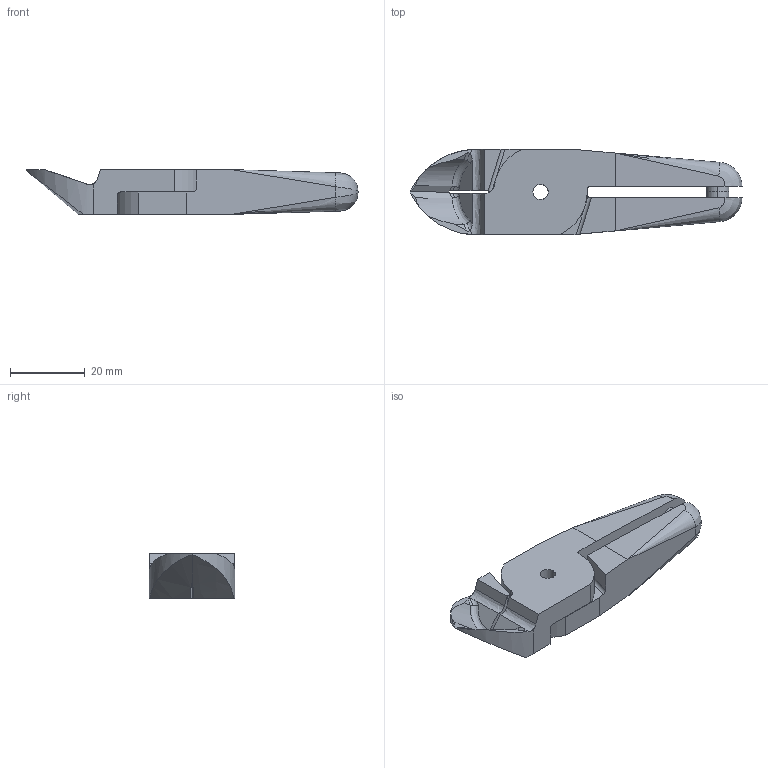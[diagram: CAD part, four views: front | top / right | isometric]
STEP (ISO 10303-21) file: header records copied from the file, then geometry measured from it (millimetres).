
FILE_DESCRIPTION (( 'STEP AP214' ), '1' );
FILE_NAME ('N10LPF.STEP', '2019-11-29T08:21:03', ( '微软用户' ), ( '微软中国' ), 'SwSTEP 2.0', 'SolidWorks 2016', '' );
FILE_SCHEMA (( 'AUTOMOTIVE_DESIGN' ));
Length unit declared in the file: millimetre
Products named in the file (1): N10LPF
Bounding box: 89 x 23 x 12 mm (x, y, z)
Surface area: 7779 mm2 (no closed solid volume)
Topology: 0 solids, 2 shells, 90 faces, 261 edges, 170 vertices
Faces by surface type: plane 45, cylinder 29, bspline 16
Entity records: 4874 total; most frequent: CARTESIAN_POINT 2255, ORIENTED_EDGE 505, DIRECTION 345, EDGE_CURVE 257, VERTEX_POINT 170, VECTOR 135, LINE 135, AXIS2_PLACEMENT_3D 105
